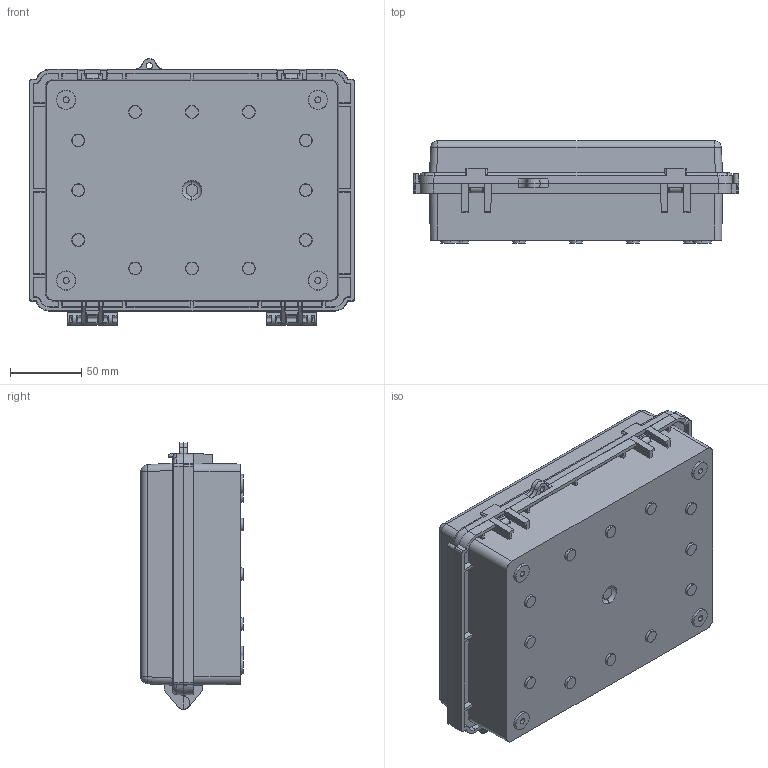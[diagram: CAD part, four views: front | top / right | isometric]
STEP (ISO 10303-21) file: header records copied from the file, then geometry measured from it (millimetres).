
FILE_DESCRIPTION (( 'STEP AP203' ), '1' );
FILE_NAME ('EC-1722-7.STEP', '2025-09-24T07:43:38', ( '' ), ( '' ), 'SwSTEP 2.0', 'SolidWorks 2021', '' );
FILE_SCHEMA (( 'CONFIG_CONTROL_DESIGN' ));
Length unit declared in the file: millimetre
Products named in the file (3): EC-1722-7; EC-1722-P-2-40; EC-1722-P-1_rev1
Assembly tree (2 placements, depth 2):
  EC-1722-7
    EC-1722-P-2-40
    EC-1722-P-1_rev1
Bounding box: 229 x 72 x 187.48 mm (x, y, z)
Volume: 447524 mm3; surface area: 270675.4 mm2
Topology: 2 solids, 2 shells, 691 faces, 1829 edges, 1172 vertices
Faces by surface type: plane 418, cylinder 114, cone 96, bspline 44, torus 10, sphere 9
Entity records: 23214 total; most frequent: CARTESIAN_POINT 6362, ORIENTED_EDGE 3636, DIRECTION 3197, EDGE_CURVE 1818, LINE 1219, VECTOR 1219, VERTEX_POINT 1170, AXIS2_PLACEMENT_3D 989
